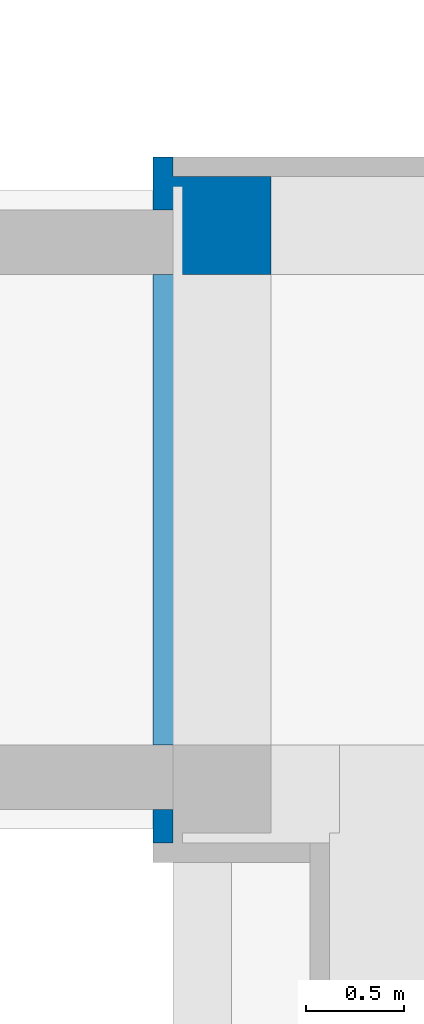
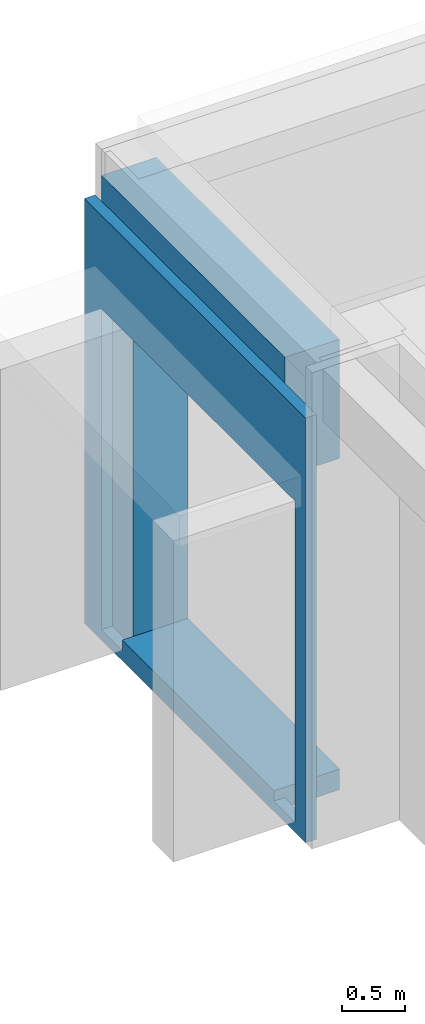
# One storey, part 9 of 17: 1 wall, 1 opening.
"""IFC4 building model written with IfcOpenShell, lengths in metres."""

from ifc_helpers import new_model, entity, si_unit, converted_unit, derived_unit, frame, origin, origin_with_axes, place, context, subcontext, project, spatial, polyline, outline, extrude, faceted_brep, material, element, save


model = new_model("IFC4")

# Units and contexts
model_context = context("Model", 3, precision=1e-05, world=origin())
body_context = subcontext(model_context, "Body", "Model", "MODEL_VIEW")
ifc_project = project(units=[si_unit("LENGTHUNIT", "METRE"), si_unit("AREAUNIT", "SQUARE_METRE"), si_unit("VOLUMEUNIT", "CUBIC_METRE"), si_unit("MASSUNIT", "GRAM", prefix="KILO"), converted_unit("PLANEANGLEUNIT", "DEGREE", entity("IfcPlaneAngleMeasure", 0.0174532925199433), si_unit("PLANEANGLEUNIT", "RADIAN"), dimensions=[0, 0, 0, 0, 0, 0, 0]), derived_unit("THERMALTRANSMITTANCEUNIT", [(si_unit("POWERUNIT", "WATT"), 1), (si_unit("THERMODYNAMICTEMPERATUREUNIT", "KELVIN"), -1), (si_unit("LENGTHUNIT", "METRE"), -2)]), derived_unit("VOLUMETRICFLOWRATEUNIT", [(si_unit("LENGTHUNIT", "METRE"), 3), (converted_unit("TIMEUNIT", "hour", entity("IfcTimeMeasure", 3600.0), si_unit("TIMEUNIT", "SECOND"), dimensions=[0, 0, 1, 0, 0, 0, 0]), -1), (si_unit("LENGTHUNIT", "METRE"), -1)])], contexts=[model_context])

# Site, building, storey
site_placement = place(None, origin())
site = spatial("IfcSite", under=ifc_project, at=site_placement, Name="3. ASŘ", CompositionType="ELEMENT")
building_placement = place(site_placement, origin())
building = spatial("IfcBuilding", under=site, at=building_placement, Name="Pavilon C", CompositionType="ELEMENT")
storey_placement = place(building_placement, frame((0.0, 0.0, 13.8)))
storey = spatial("IfcBuildingStorey", under=building, at=storey_placement, Name="Půdorys 5.NP", CompositionType="ELEMENT", Elevation=13.8)

# Wall, opening
ifc_material = material(Name="EPS")
wall_placement = place(storey_placement, frame((-10.475, 7.45, -0.9)))
wall = element("IfcWall", 1, at=wall_placement, inside=storey, material=ifc_material, Name="ZDIVO Z CDm", context=body_context, shape_type="Brep", body=[
    faceted_brep([(0.6, 3.4, -1.81898940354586e-15), (0.6, 0.500000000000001, -1.81898940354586e-15), (0.6, 0.500000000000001, 4.35), (0.6, 3.4, 4.35), (0.1, 3.4, 4.1), (0.1, 3.4, -1.81898940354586e-15), (0.1, 3.4, 4.35), (0.1, 0.500000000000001, 4.35), (0.1, 0.500000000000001, 4.1), (0.1, 3.5, 4.1), (0.1, 3.5, -1.81898940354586e-15), (0.0, 3.23, 3.2), (0.0, 2.9, 3.2), (0.1, 2.9, 3.2), (0.1, 3.23, 3.2), (0.1, 3.23, 0.0999999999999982), (0.1, 2.9, 0.0999999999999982), (0.0, 2.9, 0.0999999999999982), (0.0, 3.23, 0.0999999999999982), (0.0, 0.500000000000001, 3.2), (0.0, 0.170000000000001, 3.2), (0.1, 0.170000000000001, 3.2), (0.1, 0.500000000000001, 3.2), (0.1, 0.500000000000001, 0.1), (0.1, 0.170000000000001, 0.1), (0.0, 0.170000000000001, 0.1), (0.0, 0.500000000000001, 0.1), (0.1, 0.500000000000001, -1.81898940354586e-15), (0.1, 9.09494701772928e-16, -1.81898940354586e-15), (0.1, 9.09494701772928e-16, 4.1), (0.0, 9.09494701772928e-16, -1.81898940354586e-15), (0.0, 9.09494701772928e-16, 4.1), (0.0, 3.5, -1.81898940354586e-15), (0.0, 3.5, 4.1)], [[[0, 1, 2, 3]], [[4, 5, 0, 3, 6]], [[6, 3, 2, 7]], [[6, 7, 8, 4]], [[9, 10, 5, 4]], [[11, 12, 13, 14]], [[15, 16, 17, 18]], [[14, 15, 18, 11]], [[12, 17, 16, 13]], [[19, 20, 21, 22]], [[23, 24, 25, 26]], [[22, 8, 7, 2, 1, 27, 23, 26, 19]], [[20, 25, 24, 21]], [[22, 21, 24, 23, 27, 28, 29, 8]], [[28, 30, 31, 29]], [[30, 32, 33, 31], [17, 12, 11, 18], [25, 20, 19, 26]], [[32, 10, 9, 33]], [[33, 9, 4, 8, 29, 31]], [[27, 1, 0, 5, 10, 32, 30, 28]], [[13, 16, 15, 14]]], orient=[[False], [False], [False], [False], [False], [False], [False], [False], [False], [False], [False], [False], [False], [False], [False], [False, False, False], [False], [False], [False], [False]]),
])
opening_placement = place(wall_placement, frame((0.0, 2.9, 0.2), z_axis=(1.0, 0.0, 0.0), x_axis=(0.0, 0.0, 1.0)))
element("IfcOpeningElement", 2, at=opening_placement, cuts=wall, Name="Dveřní otvor", ObjectType="Opening", context=body_context, shape_type="SweptSolid", body=[
    extrude(outline(polyline([(0.0, 2.4), (3.0, 2.4), (3.0, 0.0), (0.0, 0.0), (0.0, 2.4)])), origin_with_axes(), (0.0, 0.0, 1.0), 0.1),
    extrude(outline(polyline([(0.0, 2.4), (3.0, 2.4), (3.0, 0.0), (0.0, 0.0), (0.0, 2.4)])), frame((0.0, 0.0, 0.1), z_axis=(0.0, 0.0, 1.0), x_axis=(1.0, 0.0, 0.0)), (0.0, 0.0, 1.0), 0.5),
])

save(model, "model.ifc")
